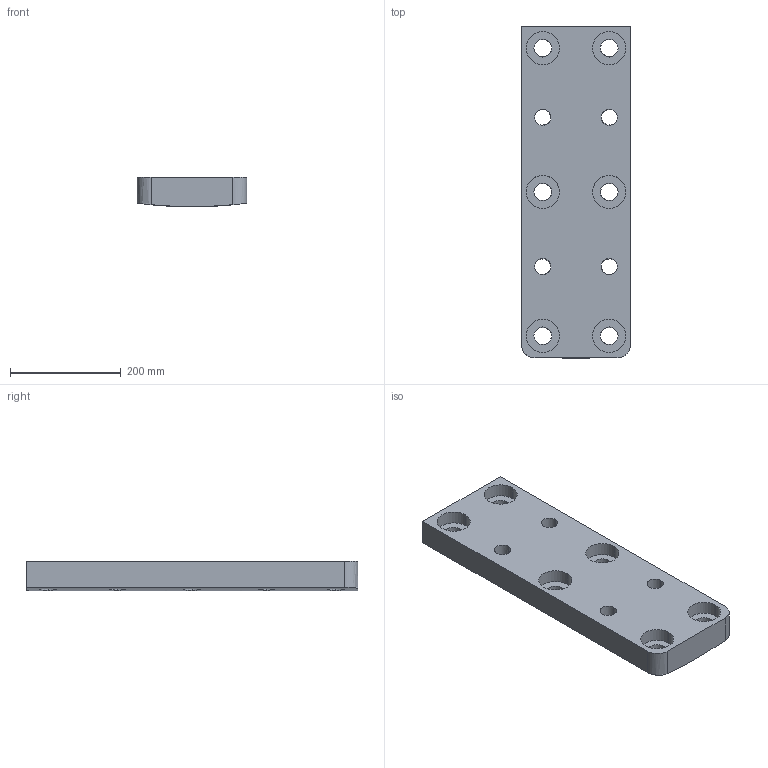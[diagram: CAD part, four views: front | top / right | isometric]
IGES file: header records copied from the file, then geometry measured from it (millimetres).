
Start section:  PTC IGES file: sst_plug_stop.igs
Global section: file name: sst_plug_stop.igs; native system: Pro/ENGINEER by Parametric Technology Corporation; preprocessor: 1999260; author: oshatz; organization: Unknown; date: 000922.101615; units: millimetre
Bounding box: 198 x 600 x 53.55 mm (x, y, z)
Surface area: 360408.1 mm2 (no closed solid volume)
Topology: 0 solids, 0 shells, 46 faces, 228 edges, 228 vertices
Faces by surface type: revolution 35, bspline 11
